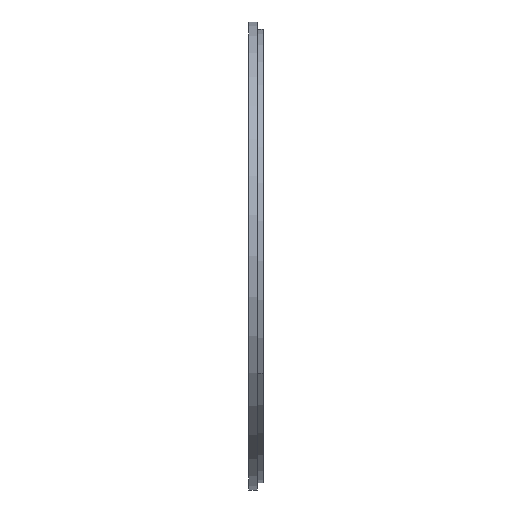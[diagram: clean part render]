
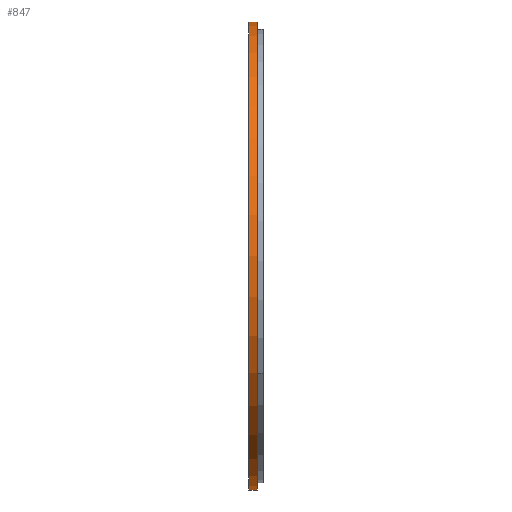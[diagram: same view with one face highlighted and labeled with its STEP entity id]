
A CAD part, front view. The second image highlights one B-rep face of the part: STEP entity #847.
In plain terms, the highlighted cylindrical face has radius 32 mm (diameter 64 mm), a partial arc.
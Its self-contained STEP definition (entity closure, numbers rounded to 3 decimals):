
#17 = CIRCLE ( 'NONE', #528, 32. ) ;
#55 = EDGE_CURVE ( 'NONE', #901, #1425, #661, .T. ) ;
#59 = LINE ( 'NONE', #617, #341 ) ;
#211 = EDGE_CURVE ( 'NONE', #776, #810, #17, .T. ) ;
#282 = DIRECTION ( 'NONE',  ( -1., 0., 0. ) ) ;
#287 = DIRECTION ( 'NONE',  ( 0., 0., 1. ) ) ;
#290 = DIRECTION ( 'NONE',  ( 0., 0., 1. ) ) ;
#341 = VECTOR ( 'NONE', #1124, 1000. ) ;
#359 = FACE_OUTER_BOUND ( 'NONE', #689, .T. ) ;
#374 = EDGE_CURVE ( 'NONE', #1425, #810, #59, .T. ) ;
#478 = CARTESIAN_POINT ( 'NONE',  ( 1.2, 0., -32. ) ) ;
#510 = ORIENTED_EDGE ( 'NONE', *, *, #1446, .F. ) ;
#528 = AXIS2_PLACEMENT_3D ( 'NONE', #1063, #282, #1353 ) ;
#576 = CARTESIAN_POINT ( 'NONE',  ( 1.2, 0., 32. ) ) ;
#617 = CARTESIAN_POINT ( 'NONE',  ( 0., 0., 32. ) ) ;
#634 = ORIENTED_EDGE ( 'NONE', *, *, #211, .F. ) ;
#656 = DIRECTION ( 'NONE',  ( -1., 0., 0. ) ) ;
#661 = CIRCLE ( 'NONE', #1168, 32. ) ;
#689 = EDGE_LOOP ( 'NONE', ( #510, #1563, #998, #634 ) ) ;
#720 = CARTESIAN_POINT ( 'NONE',  ( 0., 0., -32. ) ) ;
#743 = DIRECTION ( 'NONE',  ( -1., 0., 0. ) ) ;
#776 = VERTEX_POINT ( 'NONE', #720 ) ;
#810 = VERTEX_POINT ( 'NONE', #1241 ) ;
#815 = CARTESIAN_POINT ( 'NONE',  ( 0., 0., 0. ) ) ;
#847 = ADVANCED_FACE ( 'NONE', ( #359 ), #1354, .T. ) ;
#874 = VECTOR ( 'NONE', #743, 1000. ) ;
#901 = VERTEX_POINT ( 'NONE', #478 ) ;
#998 = ORIENTED_EDGE ( 'NONE', *, *, #374, .T. ) ;
#1063 = CARTESIAN_POINT ( 'NONE',  ( 0., 0., 0. ) ) ;
#1072 = CARTESIAN_POINT ( 'NONE',  ( 1.2, 0., 0. ) ) ;
#1113 = LINE ( 'NONE', #1537, #874 ) ;
#1124 = DIRECTION ( 'NONE',  ( -1., 0., 0. ) ) ;
#1168 = AXIS2_PLACEMENT_3D ( 'NONE', #1072, #1600, #290 ) ;
#1241 = CARTESIAN_POINT ( 'NONE',  ( 0., 0., 32. ) ) ;
#1353 = DIRECTION ( 'NONE',  ( 0., 0., 1. ) ) ;
#1354 = CYLINDRICAL_SURFACE ( 'NONE', #1662, 32. ) ;
#1425 = VERTEX_POINT ( 'NONE', #576 ) ;
#1446 = EDGE_CURVE ( 'NONE', #901, #776, #1113, .T. ) ;
#1537 = CARTESIAN_POINT ( 'NONE',  ( 0., 0., -32. ) ) ;
#1563 = ORIENTED_EDGE ( 'NONE', *, *, #55, .T. ) ;
#1600 = DIRECTION ( 'NONE',  ( -1., 0., 0. ) ) ;
#1662 = AXIS2_PLACEMENT_3D ( 'NONE', #815, #656, #287 ) ;
